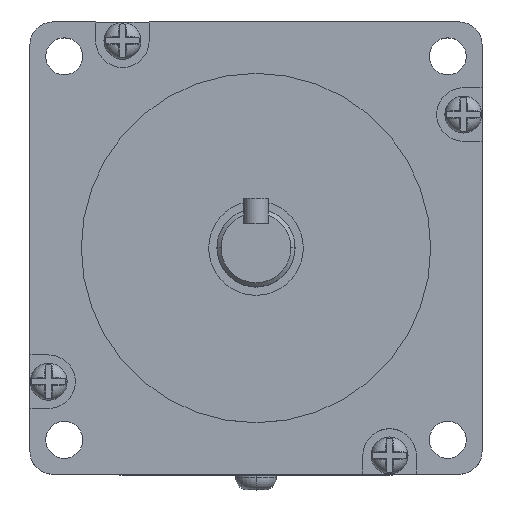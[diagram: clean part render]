
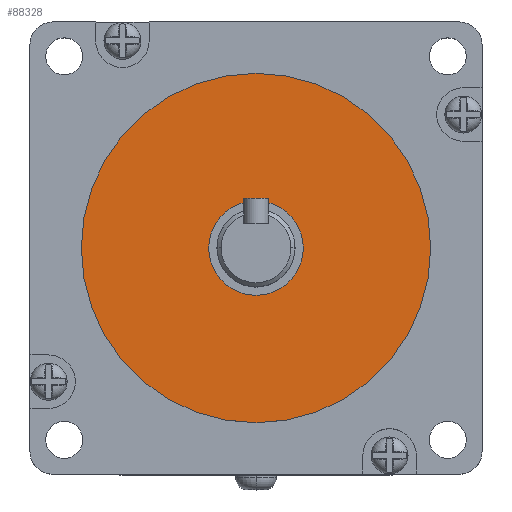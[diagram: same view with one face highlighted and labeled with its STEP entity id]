
A CAD part, top view. The second image highlights one B-rep face of the part: STEP entity #88328.
In plain terms, the highlighted planar face has unit normal (0, 0, 1).
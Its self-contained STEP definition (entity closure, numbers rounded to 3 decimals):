
#4024 = CARTESIAN_POINT ( 'NONE',  ( 11.5, 0., 205. ) ) ;
#4161 = DIRECTION ( 'NONE',  ( 0., 0., 1. ) ) ;
#6186 = AXIS2_PLACEMENT_3D ( 'NONE', #104673, #93143, #71989 ) ;
#9886 = EDGE_CURVE ( 'NONE', #107698, #77383, #52177, .T. ) ;
#10414 = ORIENTED_EDGE ( 'NONE', *, *, #126652, .T. ) ;
#18605 = ORIENTED_EDGE ( 'NONE', *, *, #117254, .F. ) ;
#25383 = PLANE ( 'NONE',  #92874 ) ;
#32117 = CARTESIAN_POINT ( 'NONE',  ( -42.5, 0., 205. ) ) ;
#38304 = VERTEX_POINT ( 'NONE', #4024 ) ;
#48578 = CARTESIAN_POINT ( 'NONE',  ( 42.5, 0., 205. ) ) ;
#52177 = CIRCLE ( 'NONE', #121760, 42.5 ) ;
#60944 = DIRECTION ( 'NONE',  ( 1., 0., 0. ) ) ;
#61625 = CARTESIAN_POINT ( 'NONE',  ( 0., 0., 205. ) ) ;
#64006 = EDGE_CURVE ( 'NONE', #75377, #38304, #95939, .T. ) ;
#71989 = DIRECTION ( 'NONE',  ( 1., 0., 0. ) ) ;
#75377 = VERTEX_POINT ( 'NONE', #101738 ) ;
#75999 = FACE_OUTER_BOUND ( 'NONE', #84736, .T. ) ;
#77383 = VERTEX_POINT ( 'NONE', #48578 ) ;
#77459 = CARTESIAN_POINT ( 'NONE',  ( 0., 0., 205. ) ) ;
#84736 = EDGE_LOOP ( 'NONE', ( #131989, #10414 ) ) ;
#86028 = EDGE_LOOP ( 'NONE', ( #124574, #18605 ) ) ;
#86052 = CARTESIAN_POINT ( 'NONE',  ( 0., 0., 205. ) ) ;
#87299 = DIRECTION ( 'NONE',  ( 1., 0., 0. ) ) ;
#88328 = ADVANCED_FACE ( 'NONE', ( #75999, #117551 ), #25383, .T. ) ;
#89475 = AXIS2_PLACEMENT_3D ( 'NONE', #61625, #93604, #60944 ) ;
#90407 = DIRECTION ( 'NONE',  ( 1., 0., 0. ) ) ;
#92874 = AXIS2_PLACEMENT_3D ( 'NONE', #118649, #4161, #87299 ) ;
#93143 = DIRECTION ( 'NONE',  ( 0., 0., 1. ) ) ;
#93604 = DIRECTION ( 'NONE',  ( 0., 0., 1. ) ) ;
#95939 = CIRCLE ( 'NONE', #132857, 11.5 ) ;
#101738 = CARTESIAN_POINT ( 'NONE',  ( -11.5, 0., 205. ) ) ;
#104673 = CARTESIAN_POINT ( 'NONE',  ( 0., 0., 205. ) ) ;
#107698 = VERTEX_POINT ( 'NONE', #32117 ) ;
#110125 = DIRECTION ( 'NONE',  ( 0., 0., 1. ) ) ;
#116701 = DIRECTION ( 'NONE',  ( 1., 0., 0. ) ) ;
#117254 = EDGE_CURVE ( 'NONE', #38304, #75377, #130163, .T. ) ;
#117551 = FACE_BOUND ( 'NONE', #86028, .T. ) ;
#118649 = CARTESIAN_POINT ( 'NONE',  ( 0., 0., 205. ) ) ;
#121760 = AXIS2_PLACEMENT_3D ( 'NONE', #86052, #125539, #116701 ) ;
#124574 = ORIENTED_EDGE ( 'NONE', *, *, #64006, .F. ) ;
#125539 = DIRECTION ( 'NONE',  ( 0., 0., 1. ) ) ;
#126384 = CIRCLE ( 'NONE', #89475, 42.5 ) ;
#126652 = EDGE_CURVE ( 'NONE', #77383, #107698, #126384, .T. ) ;
#130163 = CIRCLE ( 'NONE', #6186, 11.5 ) ;
#131989 = ORIENTED_EDGE ( 'NONE', *, *, #9886, .T. ) ;
#132857 = AXIS2_PLACEMENT_3D ( 'NONE', #77459, #110125, #90407 ) ;
